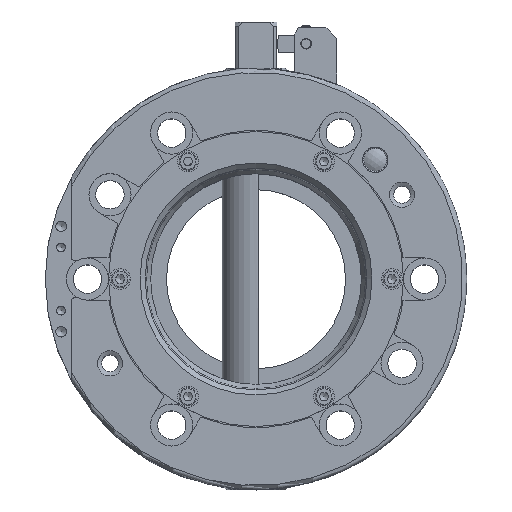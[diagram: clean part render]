
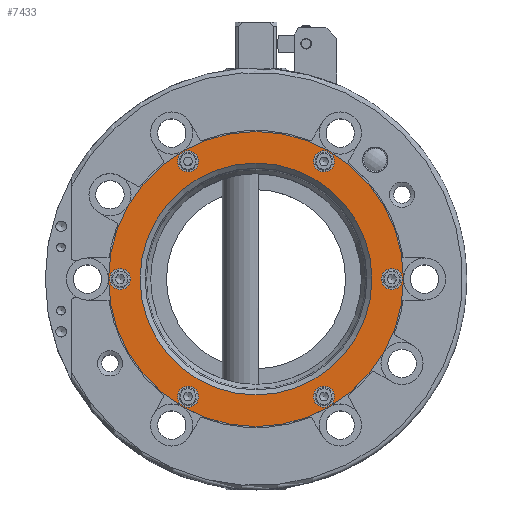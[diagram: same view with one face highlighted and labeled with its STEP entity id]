
A CAD part, top view. The second image highlights one B-rep face of the part: STEP entity #7433.
In plain terms, the highlighted planar face has unit normal (0, 0, 1).
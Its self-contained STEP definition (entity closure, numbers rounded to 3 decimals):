
#222=FACE_BOUND('',#1175,.T.);
#223=FACE_BOUND('',#1176,.T.);
#224=FACE_BOUND('',#1177,.T.);
#225=FACE_BOUND('',#1178,.T.);
#226=FACE_BOUND('',#1179,.T.);
#227=FACE_BOUND('',#1180,.T.);
#228=FACE_BOUND('',#1181,.T.);
#314=PLANE('',#8117);
#734=FACE_OUTER_BOUND('',#1174,.T.);
#1174=EDGE_LOOP('',(#5588,#5589));
#1175=EDGE_LOOP('',(#5590,#5591));
#1176=EDGE_LOOP('',(#5592,#5593));
#1177=EDGE_LOOP('',(#5594,#5595));
#1178=EDGE_LOOP('',(#5596,#5597));
#1179=EDGE_LOOP('',(#5598,#5599));
#1180=EDGE_LOOP('',(#5600,#5601));
#1181=EDGE_LOOP('',(#5602));
#2575=CIRCLE('',#8037,5.);
#2576=CIRCLE('',#8038,5.);
#2581=CIRCLE('',#8046,5.);
#2582=CIRCLE('',#8047,5.);
#2587=CIRCLE('',#8055,5.);
#2588=CIRCLE('',#8056,5.);
#2593=CIRCLE('',#8064,5.);
#2594=CIRCLE('',#8065,5.);
#2599=CIRCLE('',#8073,5.);
#2600=CIRCLE('',#8074,5.);
#2605=CIRCLE('',#8082,5.);
#2606=CIRCLE('',#8083,5.);
#2627=CIRCLE('',#8113,55.);
#2630=CIRCLE('',#8118,70.);
#2631=CIRCLE('',#8119,70.);
#3145=VERTEX_POINT('',#12291);
#3146=VERTEX_POINT('',#12292);
#3151=VERTEX_POINT('',#12308);
#3152=VERTEX_POINT('',#12309);
#3157=VERTEX_POINT('',#12325);
#3158=VERTEX_POINT('',#12326);
#3163=VERTEX_POINT('',#12342);
#3164=VERTEX_POINT('',#12343);
#3169=VERTEX_POINT('',#12359);
#3170=VERTEX_POINT('',#12360);
#3175=VERTEX_POINT('',#12376);
#3176=VERTEX_POINT('',#12377);
#3196=VERTEX_POINT('',#12435);
#3199=VERTEX_POINT('',#12445);
#3200=VERTEX_POINT('',#12446);
#4012=EDGE_CURVE('',#3145,#3146,#2575,.T.);
#4013=EDGE_CURVE('',#3146,#3145,#2576,.T.);
#4020=EDGE_CURVE('',#3151,#3152,#2581,.T.);
#4021=EDGE_CURVE('',#3152,#3151,#2582,.T.);
#4028=EDGE_CURVE('',#3157,#3158,#2587,.T.);
#4029=EDGE_CURVE('',#3158,#3157,#2588,.T.);
#4036=EDGE_CURVE('',#3163,#3164,#2593,.T.);
#4037=EDGE_CURVE('',#3164,#3163,#2594,.T.);
#4044=EDGE_CURVE('',#3169,#3170,#2599,.T.);
#4045=EDGE_CURVE('',#3170,#3169,#2600,.T.);
#4052=EDGE_CURVE('',#3175,#3176,#2605,.T.);
#4053=EDGE_CURVE('',#3176,#3175,#2606,.T.);
#4082=EDGE_CURVE('',#3196,#3196,#2627,.T.);
#4086=EDGE_CURVE('',#3199,#3200,#2630,.T.);
#4087=EDGE_CURVE('',#3200,#3199,#2631,.T.);
#5588=ORIENTED_EDGE('',*,*,#4086,.T.);
#5589=ORIENTED_EDGE('',*,*,#4087,.T.);
#5590=ORIENTED_EDGE('',*,*,#4012,.T.);
#5591=ORIENTED_EDGE('',*,*,#4013,.T.);
#5592=ORIENTED_EDGE('',*,*,#4020,.T.);
#5593=ORIENTED_EDGE('',*,*,#4021,.T.);
#5594=ORIENTED_EDGE('',*,*,#4028,.T.);
#5595=ORIENTED_EDGE('',*,*,#4029,.T.);
#5596=ORIENTED_EDGE('',*,*,#4036,.T.);
#5597=ORIENTED_EDGE('',*,*,#4037,.T.);
#5598=ORIENTED_EDGE('',*,*,#4044,.T.);
#5599=ORIENTED_EDGE('',*,*,#4045,.T.);
#5600=ORIENTED_EDGE('',*,*,#4052,.T.);
#5601=ORIENTED_EDGE('',*,*,#4053,.T.);
#5602=ORIENTED_EDGE('',*,*,#4082,.F.);
#7433=ADVANCED_FACE('',(#734,#222,#223,#224,#225,#226,#227,#228),#314,.T.);
#8037=AXIS2_PLACEMENT_3D('',#12293,#9417,#9418);
#8038=AXIS2_PLACEMENT_3D('',#12294,#9419,#9420);
#8046=AXIS2_PLACEMENT_3D('',#12310,#9437,#9438);
#8047=AXIS2_PLACEMENT_3D('',#12311,#9439,#9440);
#8055=AXIS2_PLACEMENT_3D('',#12327,#9457,#9458);
#8056=AXIS2_PLACEMENT_3D('',#12328,#9459,#9460);
#8064=AXIS2_PLACEMENT_3D('',#12344,#9477,#9478);
#8065=AXIS2_PLACEMENT_3D('',#12345,#9479,#9480);
#8073=AXIS2_PLACEMENT_3D('',#12361,#9497,#9498);
#8074=AXIS2_PLACEMENT_3D('',#12362,#9499,#9500);
#8082=AXIS2_PLACEMENT_3D('',#12378,#9517,#9518);
#8083=AXIS2_PLACEMENT_3D('',#12379,#9519,#9520);
#8113=AXIS2_PLACEMENT_3D('',#12437,#9587,#9588);
#8117=AXIS2_PLACEMENT_3D('',#12444,#9596,#9597);
#8118=AXIS2_PLACEMENT_3D('',#12447,#9598,#9599);
#8119=AXIS2_PLACEMENT_3D('',#12448,#9600,#9601);
#9417=DIRECTION('center_axis',(0.,0.,
-1.));
#9418=DIRECTION('ref_axis',(-0.5,-0.866,0.));
#9419=DIRECTION('center_axis',(0.,0.,
-1.));
#9420=DIRECTION('ref_axis',(-0.5,-0.866,0.));
#9437=DIRECTION('center_axis',(0.,0.,
-1.));
#9438=DIRECTION('ref_axis',(-1.,0.,0.));
#9439=DIRECTION('center_axis',(0.,0.,
-1.));
#9440=DIRECTION('ref_axis',(-1.,0.,0.));
#9457=DIRECTION('center_axis',(0.,0.,
-1.));
#9458=DIRECTION('ref_axis',(-0.5,0.866,0.));
#9459=DIRECTION('center_axis',(0.,0.,
-1.));
#9460=DIRECTION('ref_axis',(-0.5,0.866,0.));
#9477=DIRECTION('center_axis',(0.,0.,
-1.));
#9478=DIRECTION('ref_axis',(0.5,0.866,0.));
#9479=DIRECTION('center_axis',(0.,0.,
-1.));
#9480=DIRECTION('ref_axis',(0.5,0.866,0.));
#9497=DIRECTION('center_axis',(0.,0.,
-1.));
#9498=DIRECTION('ref_axis',(0.5,-0.866,0.));
#9499=DIRECTION('center_axis',(0.,0.,
-1.));
#9500=DIRECTION('ref_axis',(0.5,-0.866,0.));
#9517=DIRECTION('center_axis',(0.,0.,
-1.));
#9518=DIRECTION('ref_axis',(1.,0.,0.));
#9519=DIRECTION('center_axis',(0.,0.,
-1.));
#9520=DIRECTION('ref_axis',(1.,0.,0.));
#9587=DIRECTION('center_axis',(0.,0.,
1.));
#9588=DIRECTION('ref_axis',(0.,1.,0.));
#9596=DIRECTION('center_axis',(0.,0.,
1.));
#9597=DIRECTION('ref_axis',(1.,0.,0.));
#9598=DIRECTION('center_axis',(0.,0.,
1.));
#9599=DIRECTION('ref_axis',(0.,-1.,0.));
#9600=DIRECTION('center_axis',(0.,0.,
1.));
#9601=DIRECTION('ref_axis',(0.,-1.,0.));
#12291=CARTESIAN_POINT('',(29.75,51.529,32.5));
#12292=CARTESIAN_POINT('',(34.75,60.189,32.5));
#12293=CARTESIAN_POINT('Origin',(32.25,55.859,32.5));
#12294=CARTESIAN_POINT('Origin',(32.25,55.859,32.5));
#12308=CARTESIAN_POINT('',(59.5,0.,32.5));
#12309=CARTESIAN_POINT('',(69.5,0.,32.5));
#12310=CARTESIAN_POINT('Origin',(64.5,0.,32.5));
#12311=CARTESIAN_POINT('Origin',(64.5,0.,32.5));
#12325=CARTESIAN_POINT('',(29.75,-51.529,32.5));
#12326=CARTESIAN_POINT('',(34.75,-60.189,32.5));
#12327=CARTESIAN_POINT('Origin',(32.25,-55.859,32.5));
#12328=CARTESIAN_POINT('Origin',(32.25,-55.859,32.5));
#12342=CARTESIAN_POINT('',(-29.75,-51.529,32.5));
#12343=CARTESIAN_POINT('',(-34.75,-60.189,32.5));
#12344=CARTESIAN_POINT('Origin',(-32.25,-55.859,32.5));
#12345=CARTESIAN_POINT('Origin',(-32.25,-55.859,32.5));
#12359=CARTESIAN_POINT('',(-29.75,51.529,32.5));
#12360=CARTESIAN_POINT('',(-34.75,60.189,32.5));
#12361=CARTESIAN_POINT('Origin',(-32.25,55.859,32.5));
#12362=CARTESIAN_POINT('Origin',(-32.25,55.859,32.5));
#12376=CARTESIAN_POINT('',(-59.5,0.,32.5));
#12377=CARTESIAN_POINT('',(-69.5,0.,32.5));
#12378=CARTESIAN_POINT('Origin',(-64.5,0.,32.5));
#12379=CARTESIAN_POINT('Origin',(-64.5,0.,32.5));
#12435=CARTESIAN_POINT('',(0.,-55.,32.5));
#12437=CARTESIAN_POINT('Origin',(0.,0.,
32.5));
#12444=CARTESIAN_POINT('Origin',(0.,-61.,32.5));
#12445=CARTESIAN_POINT('',(0.,-70.,32.5));
#12446=CARTESIAN_POINT('',(0.,70.,32.5));
#12447=CARTESIAN_POINT('Origin',(0.,0.,
32.5));
#12448=CARTESIAN_POINT('Origin',(0.,0.,
32.5));
